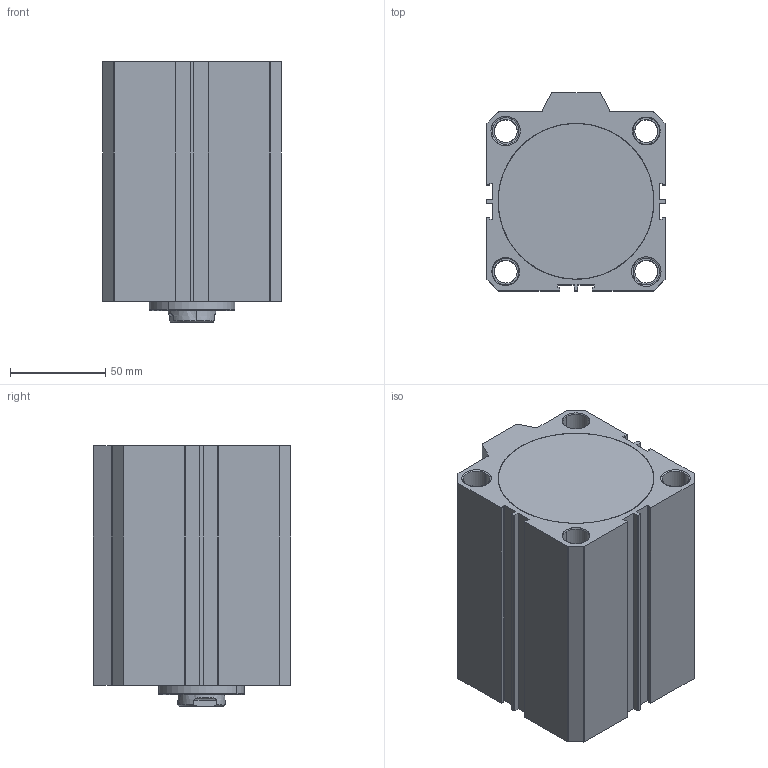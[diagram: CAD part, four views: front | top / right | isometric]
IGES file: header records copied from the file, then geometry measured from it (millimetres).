
Start section: SolidWorks IGES file using analytic representation for surfaces
Global section: file name: D:\ARICA 3D 禽Z軲LER\3D IGES\SDA-S\SDA-S 80\SDA-S-80X75CYLINDER.IGS,1; native system: 5HSolidWorks 2013; preprocessor: SolidWorks 2013; author: user; date: 150805.154415; units: millimetre
Bounding box: 94 x 104 x 137 mm (x, y, z)
Surface area: 170492.3 mm2 (no closed solid volume)
Topology: 0 solids, 0 shells, 238 faces, 5249 edges, 5249 vertices
Faces by surface type: revolution 145, bspline 93
